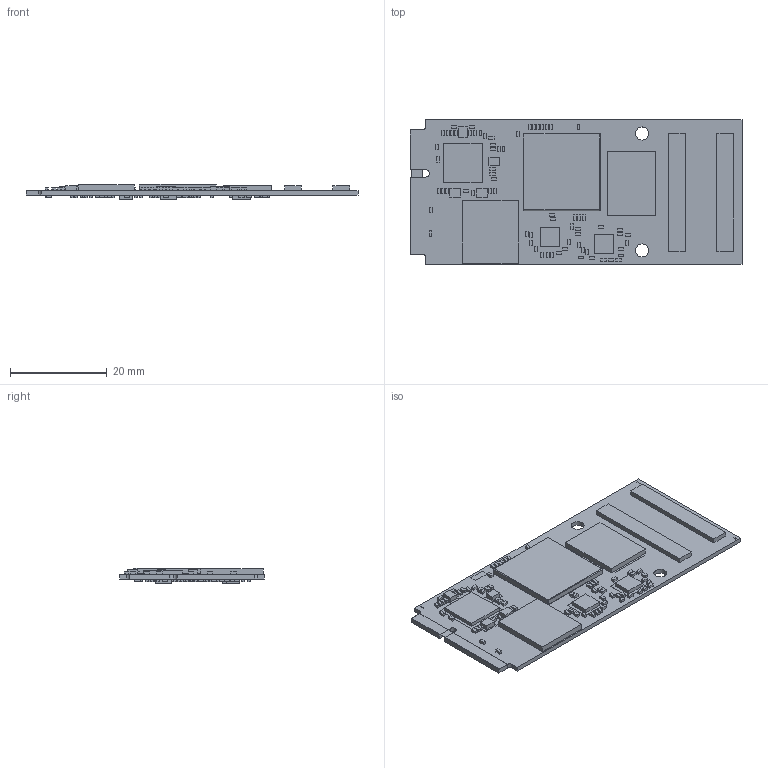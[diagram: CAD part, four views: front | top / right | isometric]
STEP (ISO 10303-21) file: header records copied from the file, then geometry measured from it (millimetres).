
FILE_DESCRIPTION(('STEP AP214'),'1');
FILE_NAME('sk_a40i_nano.step','2024-01-29T10:52:30',(' '),(' '),'Spatial InterOp 3D','XD3DPlugin XRACreate',' ');
FILE_SCHEMA(('automotive_design'));
Length unit declared in the file: millimetre
Products named in the file (114): DesignRootModel; uid__9208676; Submodel-noModelForPart_RES_0402_2271991565; placementOutline; Submodel-RES_0402_2271991565_part_RESC1005X40BN; Submodel-noModelForPart_CAP_0402_872604882; Submodel-CAP_0402_872604882_part_CAPC1005X56N; Submodel-noModelForPart_CAP_0402_2051605626; Submodel-CAP_0402_2051605626_part_CAPC1005X56N; Submodel-noModelForPart_RES_0402_2051605626; Submodel-RES_0402_2051605626_part_RESC1005X40BN; Submodel-noModelForPart_CAP_0402_2271991565; Submodel-CAP_0402_2271991565_part_CAPC1005X56N; Submodel-noModelForPart_RES_0402_872604882; Submodel-RES_0402_872604882_part_RESC1005X40BN; Submodel-noModelForPart_CAP_0402_3511803187; Submodel-CAP_0402_3511803187_part_CAPC1005X56N; Submodel-noModelForPart_CAP_0402_1129422897; Submodel-CAP_0402_1129422897_part_CAPC1005X56N; Submodel-noModelForPart_CAP_0402_1541938758; Submodel-CAP_0402_1541938758_part_CAPC1005X56N; Submodel-noModelForPart_CAP_0402_2157919439; Submodel-CAP_0402_2157919439_part_CAPC1005X56N; Submodel-noModelForPart_CKP2016_54579339; Submodel-CKP2016_54579339_part_INDC2016X100N; Submodel-noModelForPart_RES_0402_1541938758; Submodel-RES_0402_1541938758_part_RESC1005X40BN; Submodel-noModelForPart_62684-401100_1099095134; Submodel-62684-401100_1099095134_part_62684-401100_FPC-40_down; Submodel-noModelForPart_CKP2016_609191625; Submodel-CKP2016_609191625_part_INDC2016X100N; Submodel-noModelForPart_mPCIe_edge_2223017403; Submodel-mPCIe_edge_2223017403_part_mPCIe; Submodel-noModelForPart_CKP2016_3712640863; Submodel-CKP2016_3712640863_part_INDC2016X100N; Submodel-noModelForPart_RES_0402_2157919439; Submodel-RES_0402_2157919439_part_RESC1005X40BN; Submodel-noModelForPart_PLS2-2_3153375760; Submodel-PLS2-2_3153375760_part_PLS2-2; Submodel-noModelForPart_REF_1865145589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
Assembly tree (256 placements, depth 6):
  ProductRootModel
    DesignRootModel
      uid__9208676
      Submodel-RES_0402_2271991565_part_RESC1005X40BN  x10
        Submodel-noModelForPart_RES_0402_2271991565
          placementOutline
      Submodel-CAP_0402_872604882_part_CAPC1005X56N  x20
        Submodel-noModelForPart_CAP_0402_872604882
          placementOutline
      Submodel-CAP_0402_2051605626_part_CAPC1005X56N  x10
        Submodel-noModelForPart_CAP_0402_2051605626
          placementOutline
      Submodel-RES_0402_2051605626_part_RESC1005X40BN  x8
        Submodel-noModelForPart_RES_0402_2051605626
          placementOutline
      Submodel-CAP_0402_2271991565_part_CAPC1005X56N  x6
        Submodel-noModelForPart_CAP_0402_2271991565
          placementOutline
      Submodel-RES_0402_872604882_part_RESC1005X40BN  x5
        Submodel-noModelForPart_RES_0402_872604882
          placementOutline
      Submodel-CAP_0402_3511803187_part_CAPC1005X56N  x10
        Submodel-noModelForPart_CAP_0402_3511803187
          placementOutline
      Submodel-CAP_0402_1129422897_part_CAPC1005X56N  x15
        Submodel-noModelForPart_CAP_0402_1129422897
          placementOutline
      Submodel-CAP_0402_1541938758_part_CAPC1005X56N  x16
        Submodel-noModelForPart_CAP_0402_1541938758
          placementOutline
      Submodel-CAP_0402_2157919439_part_CAPC1005X56N  x15
        Submodel-noModelForPart_CAP_0402_2157919439
          placementOutline
      Submodel-CKP2016_54579339_part_INDC2016X100N  x2
        Submodel-noModelForPart_CKP2016_54579339
          placementOutline
          placementOutline
      Submodel-RES_0402_1541938758_part_RESC1005X40BN  x8
        Submodel-noModelForPart_RES_0402_1541938758
          placementOutline
      Submodel-62684-401100_1099095134_part_62684-401100_FPC-40_down  x2
        Submodel-noModelForPart_62684-401100_1099095134
          placementOutline
      Submodel-CKP2016_609191625_part_INDC2016X100N
        Submodel-noModelForPart_CKP2016_609191625
          placementOutline
          placementOutline
      Submodel-mPCIe_edge_2223017403_part_mPCIe
        Submodel-noModelForPart_mPCIe_edge_2223017403
          placementOutline
      Submodel-CKP2016_3712640863_part_INDC2016X100N
        Submodel-noModelForPart_CKP2016_3712640863
          placementOutline
          placementOutline
      Submodel-RES_0402_2157919439_part_RESC1005X40BN  x6
        Submodel-noModelForPart_RES_0402_2157919439
          placementOutline
      Submodel-PLS2-2_3153375760_part_PLS2-2
        Submodel-noModelForPart_PLS2-2_3153375760
          placementOutline
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Bounding box: 68.7 x 30 x 3.26 mm (x, y, z)
Volume: 2925 mm3; surface area: 7965.6 mm2
Topology: 190 solids, 190 shells, 1174 faces, 2366 edges, 1564 vertices
Faces by surface type: plane 1148, cylinder 18, sphere 8
Full cylindrical faces by diameter (mm): 2.7 x2
Entity records: 14659 total; most frequent: DIRECTION 1910, CARTESIAN_POINT 1649, ORIENTED_EDGE 1232, AXIS2_PLACEMENT_3D 665, EDGE_CURVE 616, LINE 580, VECTOR 580, VERTEX_POINT 404
